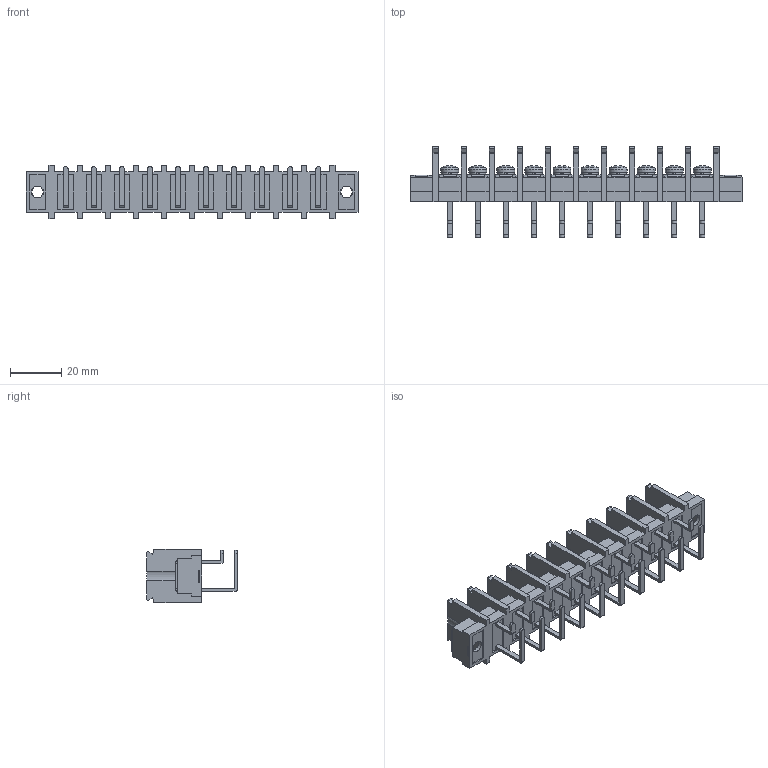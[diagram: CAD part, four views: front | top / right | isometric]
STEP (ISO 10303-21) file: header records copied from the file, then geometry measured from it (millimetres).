
FILE_DESCRIPTION(/* description */ ('Alibre Inc.'),/* implementation_level */ '2;1');
FILE_NAME(/* name */ 'export0',/* time_stamp */ '2015-12-02T13:03:50+09:00',/* author */ (''),/* organization */ (''),/* preprocessor_version */ 'ST-DEVELOPER v14',/* originating_system */ 'Alibre',/* authorisation */ '');
FILE_SCHEMA (('CONFIG_CONTROL_DESIGN'));
Length unit declared in the file: centimetre
Products named in the file (1): ID_1
Bounding box: 130 x 35.5 x 21 mm (x, y, z)
Volume: 22384.2 mm3; surface area: 25396.7 mm2
Topology: 1 solids, 17 shells, 1544 faces, 4250 edges, 2822 vertices
Faces by surface type: plane 1218, cylinder 152, bspline 104, cone 50, torus 10, sphere 10
Full cylindrical faces by diameter (mm): 4 x10, 4.55 x2, 4.6 x2, 6.5 x10, 7 x10
Entity records: 46787 total; most frequent: CARTESIAN_POINT 9624, ORIENTED_EDGE 8408, DIRECTION 5963, EDGE_CURVE 4204, VECTOR 3233, LINE 3233, VERTEX_POINT 2820, AXIS2_PLACEMENT_3D 1923
